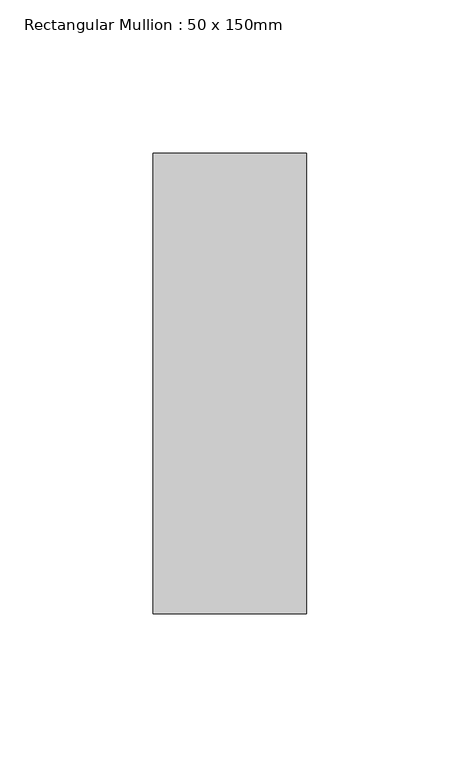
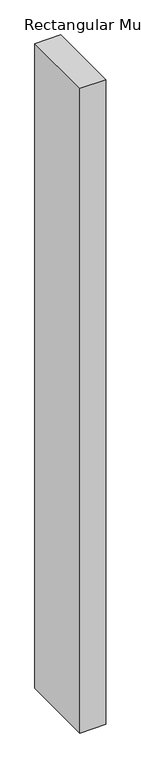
"""IFC4 building model written with IfcOpenShell, lengths in millimetres: member geometry, Rectangular Mullion : 50 x 150mm."""

from ifc_helpers import new_model, si_unit, frame, origin, place, context, project, spatial, polyline, outline, extrude, source, transform, mapped, element, save


def rectangular_mullion_50_x_150mm_d79c5d21(model_context):
    return source(origin(), model_context, "Body", "SweptSolid", [
        extrude(outline(polyline([(25.0, 75.0), (25.0, -75.0), (-25.0, -75.0), (-25.0, 75.0), (25.0, 75.0)])), frame((0.0, 0.0, -1312.8453316), z_axis=(0.0, 0.0, 1.0), x_axis=(1.0, 0.0, 0.0)), (0.0, 0.0, 1.0), 1312.8453316),
    ])


if __name__ == "__main__":
    model = new_model("IFC4")
    model_context = context("Model", 3, world=origin())
    ifc_project = project(units=[si_unit("LENGTHUNIT", "METRE", prefix="MILLI")], contexts=[model_context])
    site = spatial("IfcSite", under=ifc_project)
    building = spatial("IfcBuilding", under=site)
    placement = place(None, origin())
    rectangular_mullion_50_x_150mm_shape = rectangular_mullion_50_x_150mm_d79c5d21(model_context)
    element("IfcMember", 1, ObjectType="Rectangular Mullion : 50 x 150mm", at=placement, inside=building, context=model_context, shape_type="MappedRepresentation", body=[
        mapped(rectangular_mullion_50_x_150mm_shape, transform((0.0, 0.0, 0.0), x_axis=(1.0, 0.0, 0.0), y_axis=(0.0, 1.0, 0.0), z_axis=(0.0, 0.0, 1.0))),
    ])
    save(model, "model.ifc")
